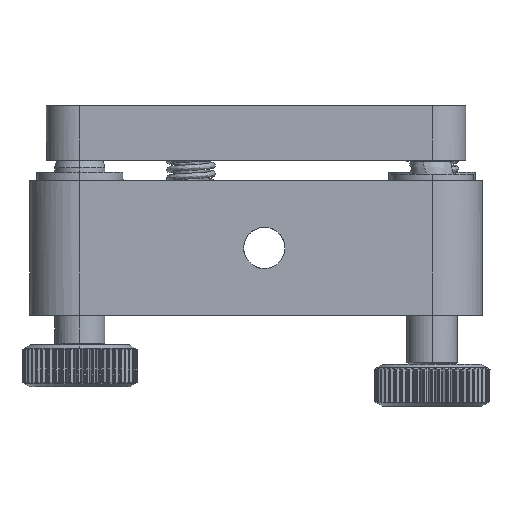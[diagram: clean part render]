
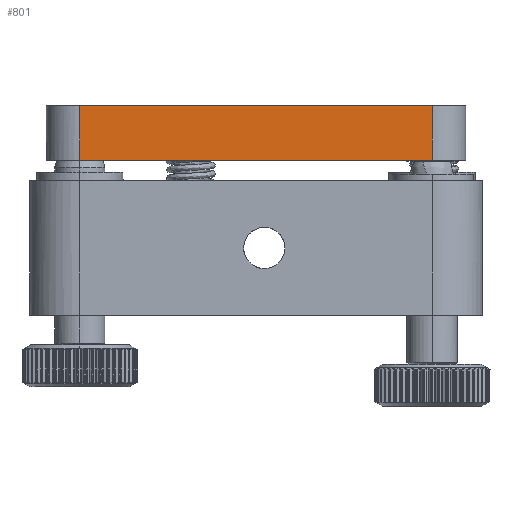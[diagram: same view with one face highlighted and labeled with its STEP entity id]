
A CAD part, left-side view. The second image highlights one B-rep face of the part: STEP entity #801.
In plain terms, the highlighted planar face has unit normal (-1, 0, 0).
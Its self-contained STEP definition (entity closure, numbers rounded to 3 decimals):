
#659 = VERTEX_POINT ( 'NONE', #7513 ) ;
#661 = EDGE_CURVE ( 'NONE', #662, #659, #7510, .T. ) ;
#662 = VERTEX_POINT ( 'NONE', #7509 ) ;
#801 = ADVANCED_FACE ( 'NONE', ( #7743 ), #7742, .T. ) ;
#802 = EDGE_LOOP ( 'NONE', ( #803, #804, #807, #809 ) ) ;
#803 = ORIENTED_EDGE ( 'NONE', *, *, #821, .T. ) ;
#804 = ORIENTED_EDGE ( 'NONE', *, *, #805, .T. ) ;
#805 = EDGE_CURVE ( 'NONE', #822, #806, #7737, .T. ) ;
#806 = VERTEX_POINT ( 'NONE', #7733 ) ;
#807 = ORIENTED_EDGE ( 'NONE', *, *, #808, .F. ) ;
#808 = EDGE_CURVE ( 'NONE', #662, #806, #7732, .T. ) ;
#809 = ORIENTED_EDGE ( 'NONE', *, *, #661, .T. ) ;
#821 = EDGE_CURVE ( 'NONE', #659, #822, #7780, .T. ) ;
#822 = VERTEX_POINT ( 'NONE', #7771 ) ;
#7509 = CARTESIAN_POINT ( 'NONE',  ( 0.926, 5.962, 24.962 ) ) ;
#7510 = B_SPLINE_CURVE_WITH_KNOTS ( 'NONE', 3,
 ( #7554, #7553, #7552, #7551 ),
 .UNSPECIFIED., .F., .F.,
 ( 4, 4 ),
 ( 0., 1. ),
 .UNSPECIFIED. ) ;
#7513 = CARTESIAN_POINT ( 'NONE',  ( 0.926, 47.962, 24.962 ) ) ;
#7551 = CARTESIAN_POINT ( 'NONE',  ( 0.926, 47.962, 24.962 ) ) ;
#7552 = CARTESIAN_POINT ( 'NONE',  ( 0.926, 33.962, 24.962 ) ) ;
#7553 = CARTESIAN_POINT ( 'NONE',  ( 0.926, 19.962, 24.962 ) ) ;
#7554 = CARTESIAN_POINT ( 'NONE',  ( 0.926, 5.962, 24.962 ) ) ;
#7730 = VECTOR ( 'NONE', #7796, 1000. ) ;
#7731 = CARTESIAN_POINT ( 'NONE',  ( 0.926, 5.962, 18.462 ) ) ;
#7732 = LINE ( 'NONE', #7731, #7730 ) ;
#7733 = CARTESIAN_POINT ( 'NONE',  ( 0.926, 5.962, 18.462 ) ) ;
#7734 = DIRECTION ( 'NONE',  ( 0., -1., 0. ) ) ;
#7735 = VECTOR ( 'NONE', #7734, 1000. ) ;
#7736 = CARTESIAN_POINT ( 'NONE',  ( 0.926, 48.888, 18.462 ) ) ;
#7737 = LINE ( 'NONE', #7736, #7735 ) ;
#7738 = DIRECTION ( 'NONE',  ( 0., -1., 0. ) ) ;
#7739 = DIRECTION ( 'NONE',  ( -1., 0., 0. ) ) ;
#7740 = CARTESIAN_POINT ( 'NONE',  ( 0.926, 1.962, 18.462 ) ) ;
#7741 = AXIS2_PLACEMENT_3D ( 'NONE', #7740, #7739, #7738 ) ;
#7742 = PLANE ( 'NONE',  #7741 ) ;
#7743 = FACE_OUTER_BOUND ( 'NONE', #802, .T. ) ;
#7771 = CARTESIAN_POINT ( 'NONE',  ( 0.926, 47.962, 18.462 ) ) ;
#7772 = DIRECTION ( 'NONE',  ( 0., 0., -1. ) ) ;
#7773 = VECTOR ( 'NONE', #7772, 1000. ) ;
#7774 = CARTESIAN_POINT ( 'NONE',  ( 0.926, 47.962, 18.462 ) ) ;
#7780 = LINE ( 'NONE', #7774, #7773 ) ;
#7796 = DIRECTION ( 'NONE',  ( 0., 0., -1. ) ) ;
